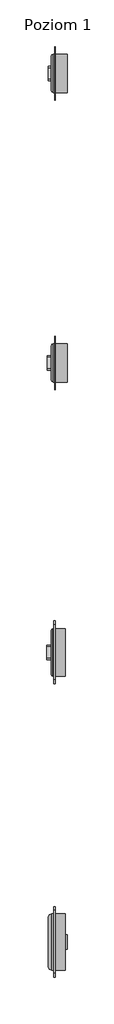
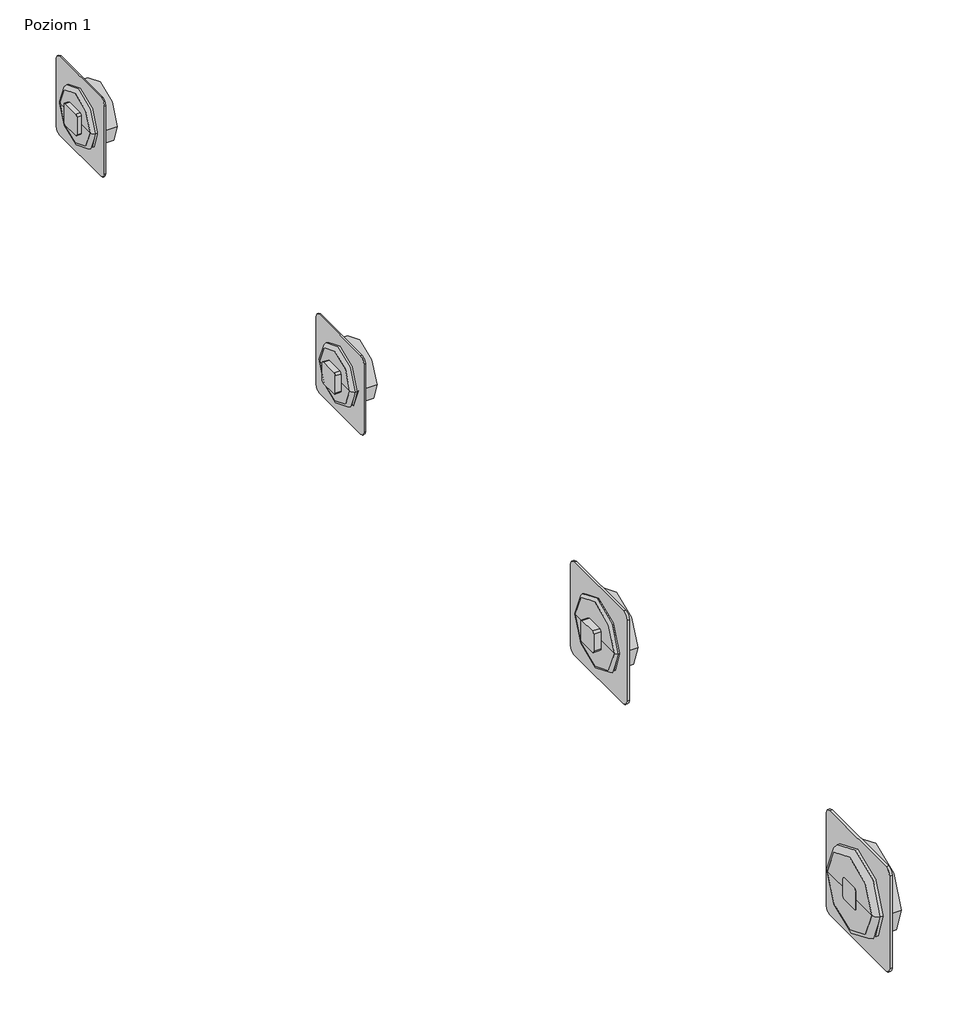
# One storey: 4 unitary equipment elements.
"""IFC4 building model written with IfcOpenShell, lengths in millimetres."""

from ifc_helpers import new_model, si_unit, origin, place, context, project, spatial, transform, mapped, element, save
from components import unitary_equipment_250_2_1800_beef494e, unitary_equipment_250_4_1000_9b77035d, unitary_equipment_300_4_1950_7e46b314, unitary_equipment_350_4_2900_2d044086

model = new_model("IFC4")

# Units and contexts
model_context = context("Model", 3, world=origin())
ifc_project = project(units=[si_unit("LENGTHUNIT", "METRE", prefix="MILLI")], contexts=[model_context])

# Site, building, storey
site = spatial("IfcSite", under=ifc_project)
building = spatial("IfcBuilding", under=site)
storey = spatial("IfcBuildingStorey", under=building, Name="Poziom 1", Elevation=0.0)

# Unitary equipment
placement = place(None, origin())
unitary_equipment_250_2_1800_shape = unitary_equipment_250_2_1800_beef494e(model_context)
element("IfcUnitaryEquipment", 1, ObjectType="VE-Wentylator-ParaForma-Harmann-SHARK-Wywiewny : 250/2/1800", at=placement, inside=storey, context=model_context, shape_type="MappedRepresentation", body=[
    mapped(unitary_equipment_250_2_1800_shape, transform((4582.5, 7000.0, 0.0), x_axis=(0.0, -1.0, 0.0), y_axis=(0.0, 0.0, 1.0), z_axis=(-1.0, 0.0, 0.0))),
])
unitary_equipment_250_4_1000_shape = unitary_equipment_250_4_1000_9b77035d(model_context)
element("IfcUnitaryEquipment", 2, ObjectType="VE-Wentylator-ParaForma-Harmann-SHARK-Wywiewny : 250/4/1000", at=placement, inside=storey, context=model_context, shape_type="MappedRepresentation", body=[
    mapped(unitary_equipment_250_4_1000_shape, transform((4582.5, 5000.0, 0.0), x_axis=(0.0, -1.0, 0.0), y_axis=(0.0, 0.0, 1.0), z_axis=(-1.0, 0.0, 0.0))),
])
unitary_equipment_300_4_1950_shape = unitary_equipment_300_4_1950_7e46b314(model_context)
element("IfcUnitaryEquipment", 3, ObjectType="VE-Wentylator-ParaForma-Harmann-SHARK-Wywiewny : 300/4/1950", at=placement, inside=storey, context=model_context, shape_type="MappedRepresentation", body=[
    mapped(unitary_equipment_300_4_1950_shape, transform((4582.5, 3000.0, 0.0), x_axis=(0.0, -1.0, 0.0), y_axis=(0.0, 0.0, 1.0), z_axis=(-1.0, 0.0, 0.0))),
])
unitary_equipment_350_4_2900_shape = unitary_equipment_350_4_2900_2d044086(model_context)
element("IfcUnitaryEquipment", 4, ObjectType="VE-Wentylator-ParaForma-Harmann-SHARK-Wywiewny : 350/4/2900", at=placement, inside=storey, context=model_context, shape_type="MappedRepresentation", body=[
    mapped(unitary_equipment_350_4_2900_shape, transform((4582.5, 1000.0, 0.0), x_axis=(0.0, -1.0, 0.0), y_axis=(0.0, 0.0, 1.0), z_axis=(-1.0, 0.0, 0.0))),
])

save(model, "model.ifc")
